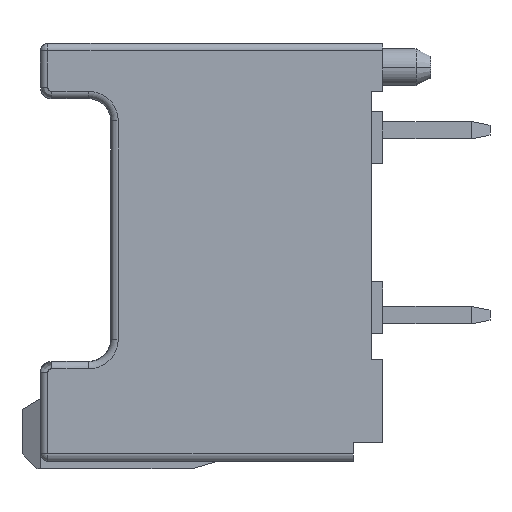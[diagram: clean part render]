
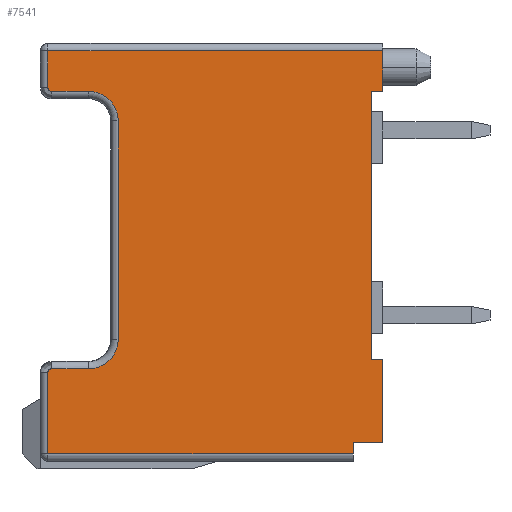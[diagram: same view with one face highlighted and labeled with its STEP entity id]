
A CAD part, left-side view. The second image highlights one B-rep face of the part: STEP entity #7541.
In plain terms, the highlighted planar face has unit normal (-1, 0, 0).
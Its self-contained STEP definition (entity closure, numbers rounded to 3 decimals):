
#558 = EDGE_LOOP ( 'NONE', ( #21769, #2094, #3060, #12941, #9612, #13128, #29325, #25097, #18308, #11822, #27882, #32030, #1515, #27258, #12374, #34099, #4896, #6431 ) ) ;
#599 = DIRECTION ( 'NONE',  ( 0., 0., -1. ) ) ;
#685 = CARTESIAN_POINT ( 'NONE',  ( -11.7, 0., -0.2 ) ) ;
#787 = VECTOR ( 'NONE', #33905, 1000. ) ;
#990 = DIRECTION ( 'NONE',  ( 0., 1., 0. ) ) ;
#1446 = CARTESIAN_POINT ( 'NONE',  ( -11.7, 7.15, -2.1 ) ) ;
#1515 = ORIENTED_EDGE ( 'NONE', *, *, #35880, .T. ) ;
#1924 = VERTEX_POINT ( 'NONE', #5662 ) ;
#2094 = ORIENTED_EDGE ( 'NONE', *, *, #15390, .T. ) ;
#2245 = DIRECTION ( 'NONE',  ( 0., 0., -1. ) ) ;
#2517 = VERTEX_POINT ( 'NONE', #4505 ) ;
#2804 = CIRCLE ( 'NONE', #15380, 0.8 ) ;
#3060 = ORIENTED_EDGE ( 'NONE', *, *, #30793, .T. ) ;
#3138 = CARTESIAN_POINT ( 'NONE',  ( -11.7, 8.95, -1.3 ) ) ;
#3774 = VERTEX_POINT ( 'NONE', #12795 ) ;
#3918 = CARTESIAN_POINT ( 'NONE',  ( -11.7, 0.3, -8.55 ) ) ;
#4142 = LINE ( 'NONE', #26227, #25505 ) ;
#4216 = LINE ( 'NONE', #12833, #34584 ) ;
#4222 = VERTEX_POINT ( 'NONE', #10644 ) ;
#4327 = VERTEX_POINT ( 'NONE', #19779 ) ;
#4505 = CARTESIAN_POINT ( 'NONE',  ( -11.7, 0., -8.55 ) ) ;
#4808 = FACE_OUTER_BOUND ( 'NONE', #558, .T. ) ;
#4896 = ORIENTED_EDGE ( 'NONE', *, *, #36744, .T. ) ;
#4968 = VECTOR ( 'NONE', #17606, 1000. ) ;
#5059 = CARTESIAN_POINT ( 'NONE',  ( -11.7, 9.05, -1.2 ) ) ;
#5662 = CARTESIAN_POINT ( 'NONE',  ( -11.7, 0., -10.8 ) ) ;
#6033 = CARTESIAN_POINT ( 'NONE',  ( -11.7, 9.05, -0.2 ) ) ;
#6431 = ORIENTED_EDGE ( 'NONE', *, *, #14396, .T. ) ;
#6461 = EDGE_CURVE ( 'NONE', #4327, #16964, #27083, .T. ) ;
#6563 = CARTESIAN_POINT ( 'NONE',  ( -11.7, 0., -0.2 ) ) ;
#6891 = VECTOR ( 'NONE', #7962, 1000. ) ;
#6940 = VECTOR ( 'NONE', #990, 1000. ) ;
#7413 = DIRECTION ( 'NONE',  ( 1., 0., 0. ) ) ;
#7531 = CARTESIAN_POINT ( 'NONE',  ( -11.7, 9.05, -11.1 ) ) ;
#7541 = ADVANCED_FACE ( 'NONE', ( #4808 ), #30093, .F. ) ;
#7793 = LINE ( 'NONE', #27434, #13262 ) ;
#7962 = DIRECTION ( 'NONE',  ( 0., 1., 0. ) ) ;
#7982 = CIRCLE ( 'NONE', #17540, 0.8 ) ;
#8087 = EDGE_CURVE ( 'NONE', #15847, #3774, #23827, .T. ) ;
#8917 = VECTOR ( 'NONE', #34570, 1000. ) ;
#8961 = EDGE_CURVE ( 'NONE', #15925, #20668, #33329, .T. ) ;
#9068 = VERTEX_POINT ( 'NONE', #15937 ) ;
#9090 = AXIS2_PLACEMENT_3D ( 'NONE', #36441, #13418, #24826 ) ;
#9612 = ORIENTED_EDGE ( 'NONE', *, *, #17873, .T. ) ;
#9619 = CARTESIAN_POINT ( 'NONE',  ( -11.7, 9.05, -8.9 ) ) ;
#9864 = CARTESIAN_POINT ( 'NONE',  ( -11.7, 0.3, -8.55 ) ) ;
#10017 = CARTESIAN_POINT ( 'NONE',  ( -11.7, 8.95, -1.2 ) ) ;
#10518 = CARTESIAN_POINT ( 'NONE',  ( -11.7, 0.8, -10.8 ) ) ;
#10644 = CARTESIAN_POINT ( 'NONE',  ( -11.7, 9.05, -0.2 ) ) ;
#10942 = CARTESIAN_POINT ( 'NONE',  ( -11.7, 7.95, -2.1 ) ) ;
#11124 = VERTEX_POINT ( 'NONE', #35464 ) ;
#11782 = DIRECTION ( 'NONE',  ( 1., 0., 0. ) ) ;
#11822 = ORIENTED_EDGE ( 'NONE', *, *, #8961, .F. ) ;
#12123 = EDGE_CURVE ( 'NONE', #31520, #19213, #25870, .T. ) ;
#12374 = ORIENTED_EDGE ( 'NONE', *, *, #17549, .F. ) ;
#12684 = VECTOR ( 'NONE', #21009, 1000. ) ;
#12795 = CARTESIAN_POINT ( 'NONE',  ( -11.7, 9.05, -11.1 ) ) ;
#12833 = CARTESIAN_POINT ( 'NONE',  ( -11.7, 0., -8.55 ) ) ;
#12941 = ORIENTED_EDGE ( 'NONE', *, *, #6461, .T. ) ;
#13082 = EDGE_CURVE ( 'NONE', #23564, #20914, #27416, .T. ) ;
#13091 = CARTESIAN_POINT ( 'NONE',  ( -11.7, 0., -0.2 ) ) ;
#13128 = ORIENTED_EDGE ( 'NONE', *, *, #13082, .T. ) ;
#13214 = DIRECTION ( 'NONE',  ( 0., -1., 0. ) ) ;
#13262 = VECTOR ( 'NONE', #13214, 1000. ) ;
#13418 = DIRECTION ( 'NONE',  ( 1., 0., 0. ) ) ;
#13926 = VERTEX_POINT ( 'NONE', #3918 ) ;
#13976 = CARTESIAN_POINT ( 'NONE',  ( -11.7, 0.8, -11.1 ) ) ;
#14270 = LINE ( 'NONE', #6033, #26934 ) ;
#14358 = LINE ( 'NONE', #685, #8917 ) ;
#14396 = EDGE_CURVE ( 'NONE', #4222, #31520, #14270, .T. ) ;
#15100 = VECTOR ( 'NONE', #24279, 1000. ) ;
#15380 = AXIS2_PLACEMENT_3D ( 'NONE', #10942, #7413, #30239 ) ;
#15390 = EDGE_CURVE ( 'NONE', #19213, #9068, #7793, .T. ) ;
#15563 = DIRECTION ( 'NONE',  ( 0., 0., -1. ) ) ;
#15625 = DIRECTION ( 'NONE',  ( -1., 0., 0. ) ) ;
#15669 = CARTESIAN_POINT ( 'NONE',  ( -11.7, 8.95, -8.9 ) ) ;
#15847 = VERTEX_POINT ( 'NONE', #23492 ) ;
#15925 = VERTEX_POINT ( 'NONE', #24410 ) ;
#15937 = CARTESIAN_POINT ( 'NONE',  ( -11.7, 7.95, -1.3 ) ) ;
#16508 = LINE ( 'NONE', #21928, #787 ) ;
#16672 = VECTOR ( 'NONE', #34935, 1000. ) ;
#16964 = VERTEX_POINT ( 'NONE', #24237 ) ;
#17235 = LINE ( 'NONE', #6563, #4968 ) ;
#17306 = CARTESIAN_POINT ( 'NONE',  ( -11.7, 0.3, -1.3 ) ) ;
#17540 = AXIS2_PLACEMENT_3D ( 'NONE', #28446, #11782, #37058 ) ;
#17549 = EDGE_CURVE ( 'NONE', #11124, #22289, #16508, .T. ) ;
#17606 = DIRECTION ( 'NONE',  ( 0., 0., -1. ) ) ;
#17873 = EDGE_CURVE ( 'NONE', #16964, #23564, #7982, .T. ) ;
#18308 = ORIENTED_EDGE ( 'NONE', *, *, #23086, .T. ) ;
#18569 = LINE ( 'NONE', #7531, #19952 ) ;
#18900 = CARTESIAN_POINT ( 'NONE',  ( -11.7, 0., -10.8 ) ) ;
#19213 = VERTEX_POINT ( 'NONE', #3138 ) ;
#19779 = CARTESIAN_POINT ( 'NONE',  ( -11.7, 7.15, -2.1 ) ) ;
#19952 = VECTOR ( 'NONE', #26988, 1000. ) ;
#20285 = AXIS2_PLACEMENT_3D ( 'NONE', #15669, #24093, #26893 ) ;
#20668 = VERTEX_POINT ( 'NONE', #13976 ) ;
#20914 = VERTEX_POINT ( 'NONE', #29678 ) ;
#21009 = DIRECTION ( 'NONE',  ( 0., 0., -1. ) ) ;
#21769 = ORIENTED_EDGE ( 'NONE', *, *, #12123, .T. ) ;
#21784 = DIRECTION ( 'NONE',  ( 0., 1., 0. ) ) ;
#21928 = CARTESIAN_POINT ( 'NONE',  ( -11.7, 0., -1.3 ) ) ;
#22289 = VERTEX_POINT ( 'NONE', #17306 ) ;
#22419 = EDGE_CURVE ( 'NONE', #34234, #11124, #17235, .T. ) ;
#23086 = EDGE_CURVE ( 'NONE', #3774, #20668, #18569, .T. ) ;
#23492 = CARTESIAN_POINT ( 'NONE',  ( -11.7, 9.05, -8.9 ) ) ;
#23564 = VERTEX_POINT ( 'NONE', #23953 ) ;
#23827 = LINE ( 'NONE', #9619, #12684 ) ;
#23880 = LINE ( 'NONE', #9864, #16672 ) ;
#23953 = CARTESIAN_POINT ( 'NONE',  ( -11.7, 7.95, -8.8 ) ) ;
#24093 = DIRECTION ( 'NONE',  ( -1., 0., 0. ) ) ;
#24237 = CARTESIAN_POINT ( 'NONE',  ( -11.7, 7.15, -8. ) ) ;
#24279 = DIRECTION ( 'NONE',  ( 0., 0., -1. ) ) ;
#24410 = CARTESIAN_POINT ( 'NONE',  ( -11.7, 0.8, -10.8 ) ) ;
#24826 = DIRECTION ( 'NONE',  ( 0., 1., 0. ) ) ;
#25097 = ORIENTED_EDGE ( 'NONE', *, *, #8087, .T. ) ;
#25339 = CARTESIAN_POINT ( 'NONE',  ( -11.7, 7.95, -8.8 ) ) ;
#25505 = VECTOR ( 'NONE', #15563, 1000. ) ;
#25745 = VECTOR ( 'NONE', #2245, 1000. ) ;
#25870 = CIRCLE ( 'NONE', #30655, 0.1 ) ;
#26227 = CARTESIAN_POINT ( 'NONE',  ( -11.7, 0., -8.55 ) ) ;
#26893 = DIRECTION ( 'NONE',  ( 0., 0., 1. ) ) ;
#26934 = VECTOR ( 'NONE', #599, 1000. ) ;
#26988 = DIRECTION ( 'NONE',  ( 0., -1., 0. ) ) ;
#27083 = LINE ( 'NONE', #1446, #15100 ) ;
#27258 = ORIENTED_EDGE ( 'NONE', *, *, #28026, .T. ) ;
#27416 = LINE ( 'NONE', #25339, #6891 ) ;
#27434 = CARTESIAN_POINT ( 'NONE',  ( -11.7, 8.95, -1.3 ) ) ;
#27882 = ORIENTED_EDGE ( 'NONE', *, *, #30072, .F. ) ;
#28026 = EDGE_CURVE ( 'NONE', #13926, #22289, #23880, .T. ) ;
#28446 = CARTESIAN_POINT ( 'NONE',  ( -11.7, 7.95, -8. ) ) ;
#29325 = ORIENTED_EDGE ( 'NONE', *, *, #34684, .T. ) ;
#29675 = DIRECTION ( 'NONE',  ( 0., 1., 0. ) ) ;
#29678 = CARTESIAN_POINT ( 'NONE',  ( -11.7, 8.95, -8.8 ) ) ;
#30072 = EDGE_CURVE ( 'NONE', #1924, #15925, #35944, .T. ) ;
#30093 = PLANE ( 'NONE',  #9090 ) ;
#30239 = DIRECTION ( 'NONE',  ( 0., 0., 1. ) ) ;
#30655 = AXIS2_PLACEMENT_3D ( 'NONE', #10017, #15625, #21784 ) ;
#30793 = EDGE_CURVE ( 'NONE', #9068, #4327, #2804, .T. ) ;
#31356 = EDGE_CURVE ( 'NONE', #2517, #1924, #4142, .T. ) ;
#31520 = VERTEX_POINT ( 'NONE', #5059 ) ;
#32030 = ORIENTED_EDGE ( 'NONE', *, *, #31356, .F. ) ;
#32826 = CIRCLE ( 'NONE', #20285, 0.1 ) ;
#33329 = LINE ( 'NONE', #10518, #25745 ) ;
#33905 = DIRECTION ( 'NONE',  ( 0., 1., 0. ) ) ;
#34099 = ORIENTED_EDGE ( 'NONE', *, *, #22419, .F. ) ;
#34234 = VERTEX_POINT ( 'NONE', #13091 ) ;
#34570 = DIRECTION ( 'NONE',  ( 0., 1., 0. ) ) ;
#34584 = VECTOR ( 'NONE', #29675, 1000. ) ;
#34684 = EDGE_CURVE ( 'NONE', #20914, #15847, #32826, .T. ) ;
#34935 = DIRECTION ( 'NONE',  ( 0., 0., 1. ) ) ;
#35464 = CARTESIAN_POINT ( 'NONE',  ( -11.7, 0., -1.3 ) ) ;
#35880 = EDGE_CURVE ( 'NONE', #2517, #13926, #4216, .T. ) ;
#35944 = LINE ( 'NONE', #18900, #6940 ) ;
#36441 = CARTESIAN_POINT ( 'NONE',  ( -11.7, 0., 0. ) ) ;
#36744 = EDGE_CURVE ( 'NONE', #34234, #4222, #14358, .T. ) ;
#37058 = DIRECTION ( 'NONE',  ( 0., -1., 0. ) ) ;
